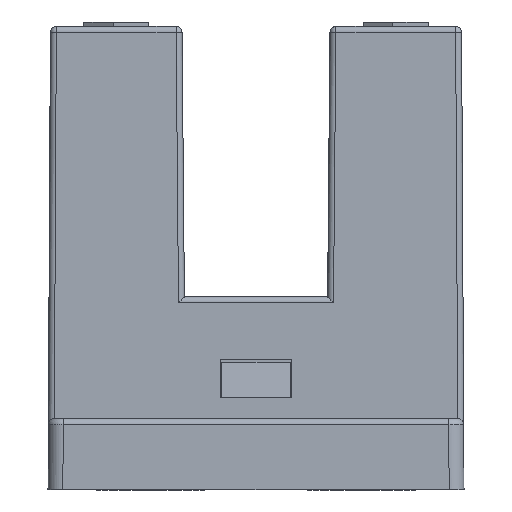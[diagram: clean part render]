
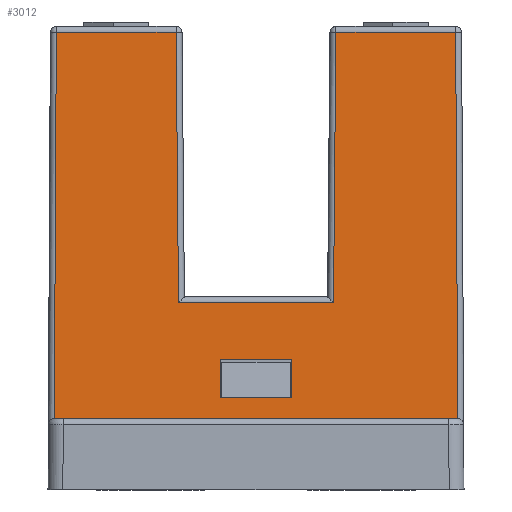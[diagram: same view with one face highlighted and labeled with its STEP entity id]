
A CAD part, left-side view. The second image highlights one B-rep face of the part: STEP entity #3012.
In plain terms, the highlighted planar face has unit normal (-1, 0, 0.018).
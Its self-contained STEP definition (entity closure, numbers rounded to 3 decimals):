
#425=DIRECTION('',(0.017,0.005,1.));
#426=VECTOR('',#425,13.006);
#427=CARTESIAN_POINT('',(-5.966,-34.649,2.4));
#428=LINE('',#427,#426);
#429=DIRECTION('',(0.,-1.,0.));
#430=VECTOR('',#429,13.576);
#431=CARTESIAN_POINT('',(-5.966,-21.073,2.4));
#432=LINE('',#431,#430);
#433=DIRECTION('',(-0.017,0.005,-1.));
#434=VECTOR('',#433,13.006);
#435=CARTESIAN_POINT('',(-5.739,-21.141,15.403));
#436=LINE('',#435,#434);
#437=DIRECTION('',(0.017,0.009,1.));
#438=VECTOR('',#437,9.102);
#439=CARTESIAN_POINT('',(-5.898,-25.252,6.303));
#440=LINE('',#439,#438);
#441=DIRECTION('',(-0.017,0.009,-1.));
#442=VECTOR('',#441,9.102);
#443=CARTESIAN_POINT('',(-5.739,-30.548,15.403));
#444=LINE('',#443,#442);
#445=DIRECTION('',(0.017,0.,1.));
#446=VECTOR('',#445,1.3);
#447=CARTESIAN_POINT('',(-5.954,-26.661,3.1));
#448=LINE('',#447,#446);
#449=DIRECTION('',(0.,1.,0.));
#450=VECTOR('',#449,2.4);
#451=CARTESIAN_POINT('',(-5.954,-29.061,3.1));
#452=LINE('',#451,#450);
#453=DIRECTION('',(-0.017,0.,-1.));
#454=VECTOR('',#453,1.3);
#455=CARTESIAN_POINT('',(-5.931,-29.061,4.4));
#456=LINE('',#455,#454);
#457=DIRECTION('',(0.,-1.,0.));
#458=VECTOR('',#457,2.4);
#459=CARTESIAN_POINT('',(-5.931,-26.661,4.4));
#460=LINE('',#459,#458);
#461=DIRECTION('',(0.,-1.,0.));
#462=VECTOR('',#461,4.032);
#463=CARTESIAN_POINT('',(-5.739,-30.548,15.403));
#464=LINE('',#463,#462);
#489=DIRECTION('',(0.,-1.,0.));
#490=VECTOR('',#489,5.217);
#491=CARTESIAN_POINT('',(-5.898,-25.252,6.303));
#492=LINE('',#491,#490);
#526=DIRECTION('',(0.,-1.,0.));
#527=VECTOR('',#526,4.032);
#528=CARTESIAN_POINT('',(-5.739,-21.141,15.403));
#529=LINE('',#528,#527);
#1791=CARTESIAN_POINT('',(-5.966,-34.649,
2.4));
#1792=VERTEX_POINT('',#1791);
#1805=CARTESIAN_POINT('',(-5.966,-21.073,
2.4));
#1806=VERTEX_POINT('',#1805);
#1819=CARTESIAN_POINT('',(-5.898,-25.252,
6.303));
#1820=CARTESIAN_POINT('',(-5.739,-25.173,
15.403));
#1821=VERTEX_POINT('',#1819);
#1822=VERTEX_POINT('',#1820);
#1823=CARTESIAN_POINT('',(-5.898,-30.469,
6.303));
#1824=VERTEX_POINT('',#1823);
#1825=CARTESIAN_POINT('',(-5.739,-21.141,
15.403));
#1826=VERTEX_POINT('',#1825);
#1827=CARTESIAN_POINT('',(-5.739,-30.548,
15.403));
#1828=VERTEX_POINT('',#1827);
#1829=CARTESIAN_POINT('',(-5.739,-34.58,
15.403));
#1830=VERTEX_POINT('',#1829);
#2162=CARTESIAN_POINT('',(-5.954,-26.661,3.1));
#2163=CARTESIAN_POINT('',(-5.931,-26.661,4.4));
#2164=VERTEX_POINT('',#2162);
#2165=VERTEX_POINT('',#2163);
#2166=CARTESIAN_POINT('',(-5.931,-29.061,4.4));
#2167=VERTEX_POINT('',#2166);
#2168=CARTESIAN_POINT('',(-5.954,-29.061,3.1));
#2169=VERTEX_POINT('',#2168);
#2980=CARTESIAN_POINT('',(-5.9,-20.368,6.2));
#2981=DIRECTION('',(-1.,0.,0.017));
#2982=DIRECTION('',(0.,-1.,0.));
#2983=AXIS2_PLACEMENT_3D('',#2980,#2981,#2982);
#2984=PLANE('',#2983);
#2986=ORIENTED_EDGE('',*,*,#2985,.T.);
#2988=ORIENTED_EDGE('',*,*,#2987,.F.);
#2989=ORIENTED_EDGE('',*,*,#2929,.F.);
#2991=ORIENTED_EDGE('',*,*,#2990,.F.);
#2993=ORIENTED_EDGE('',*,*,#2992,.T.);
#2995=ORIENTED_EDGE('',*,*,#2994,.F.);
#2997=ORIENTED_EDGE('',*,*,#2996,.T.);
#2999=ORIENTED_EDGE('',*,*,#2998,.F.);
#3000=EDGE_LOOP('',(#2986,#2988,#2989,#2991,#2993,#2995,#2997,#2999));
#3001=FACE_OUTER_BOUND('',#3000,.F.);
#3003=ORIENTED_EDGE('',*,*,#3002,.F.);
#3005=ORIENTED_EDGE('',*,*,#3004,.F.);
#3007=ORIENTED_EDGE('',*,*,#3006,.F.);
#3009=ORIENTED_EDGE('',*,*,#3008,.F.);
#3010=EDGE_LOOP('',(#3003,#3005,#3007,#3009));
#3011=FACE_BOUND('',#3010,.F.);
#3012=ADVANCED_FACE('',(#3001,#3011),#2984,.T.);
#2929=EDGE_CURVE('',#1806,#1792,#432,.T.);
#2985=EDGE_CURVE('',#1828,#1830,#464,.T.);
#2987=EDGE_CURVE('',#1792,#1830,#428,.T.);
#2990=EDGE_CURVE('',#1826,#1806,#436,.T.);
#2992=EDGE_CURVE('',#1826,#1822,#529,.T.);
#2994=EDGE_CURVE('',#1821,#1822,#440,.T.);
#2996=EDGE_CURVE('',#1821,#1824,#492,.T.);
#2998=EDGE_CURVE('',#1828,#1824,#444,.T.);
#3002=EDGE_CURVE('',#2164,#2165,#448,.T.);
#3004=EDGE_CURVE('',#2169,#2164,#452,.T.);
#3006=EDGE_CURVE('',#2167,#2169,#456,.T.);
#3008=EDGE_CURVE('',#2165,#2167,#460,.T.);
